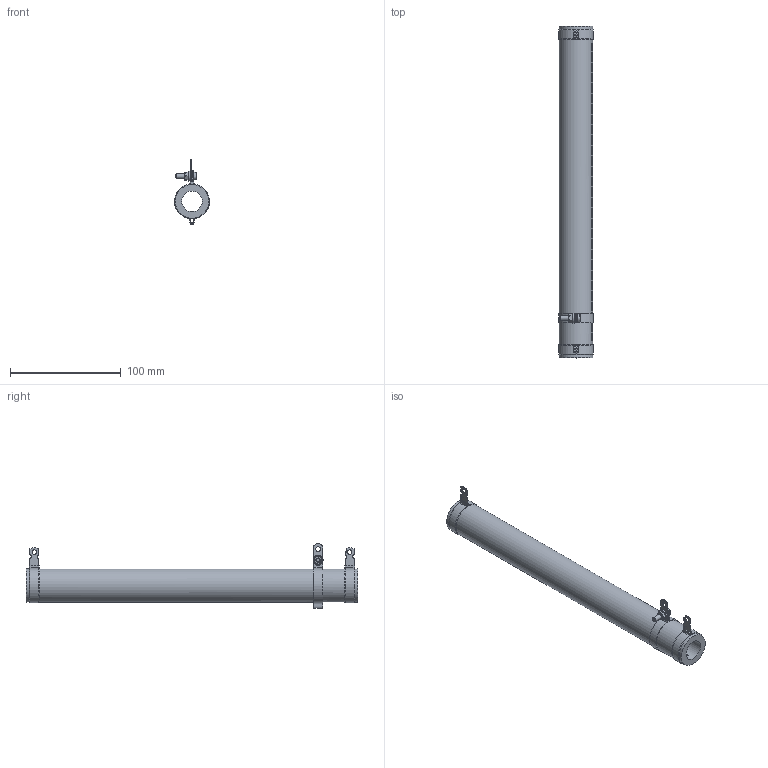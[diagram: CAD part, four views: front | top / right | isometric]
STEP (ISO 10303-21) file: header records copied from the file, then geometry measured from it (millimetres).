
FILE_DESCRIPTION(/* description */ (''),/* implementation_level */ '2;1');
FILE_NAME(/* name */ 'C:\_Vault\Dati\CATALOGO\RCA-RSA\R 25-1000\3D\RCAR 300.stp',/* time_stamp */ '2014-03-18T17:23:01+01:00',/* author */ ('stefano'),/* organization */ (''),/* preprocessor_version */ 'ST-DEVELOPER v15.2',/* originating_system */ 'Autodesk Inventor 2014',/* authorisation */ '');
FILE_SCHEMA (('AUTOMOTIVE_DESIGN { 1 0 10303 214 3 1 1 }'));
Length unit declared in the file: millimetre
Products named in the file (1): RCAR 300
Bounding box: 31.57 x 300 x 58.36 mm (x, y, z)
Volume: 140348.8 mm3; surface area: 50093.4 mm2
Topology: 1 solids, 2 shells, 808 faces, 1949 edges, 1285 vertices
Faces by surface type: plane 591, cylinder 182, cone 17, torus 14, bspline 4
Full cylindrical faces by diameter (mm): 3.571 x1, 4 x2, 4.2 x5, 4.3 x1, 9 x1, 18.5 x1, 30.5 x3
Entity records: 24612 total; most frequent: CARTESIAN_POINT 4422, DIRECTION 4148, ORIENTED_EDGE 3834, EDGE_CURVE 1917, AXIS2_PLACEMENT_3D 1479, VERTEX_POINT 1273, LINE 1190, VECTOR 1190
